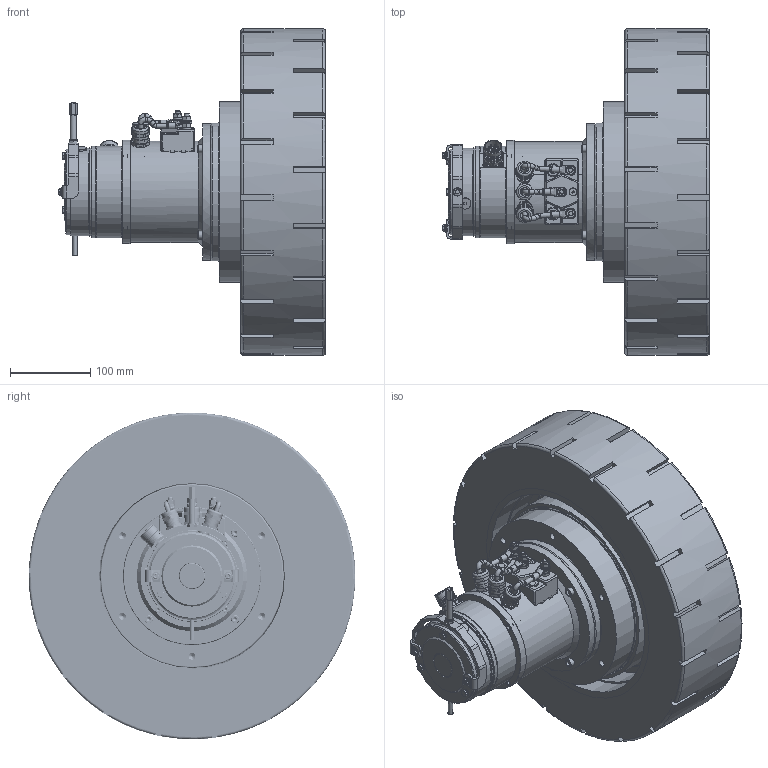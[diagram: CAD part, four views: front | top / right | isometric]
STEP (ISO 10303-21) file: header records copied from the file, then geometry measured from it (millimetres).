
FILE_DESCRIPTION(/* description */ (''),/* implementation_level */ '2;1');
FILE_NAME(/* name */ 'Z:\SITO WEB 2024\Dual Drive\MRH182\MRH182 BL D.406 mm\MRH182.BL.D406.stp',/* time_stamp */ '2024-03-15T08:33:46+01:00',/* author */ ('cad3'),/* organization */ (''),/* preprocessor_version */ 'ST-DEVELOPER v18.1',/* originating_system */ 'Autodesk Inventor 2022',/* authorisation */ '');
FILE_SCHEMA (('AUTOMOTIVE_DESIGN { 1 0 10303 214 3 1 1 }'));
Products named in the file (1): MRH182.BL.D406
Bounding box: 331.5 x 405.94 x 405.94 mm (x, y, z)
Volume: 13202982.8 mm3; surface area: 1206305.7 mm2
Topology: 7 solids, 44 shells, 3087 faces, 7704 edges, 4871 vertices
Faces by surface type: plane 1453, cylinder 756, cone 372, bspline 295, torus 164, sphere 47
Full cylindrical faces by diameter (mm): 0.9 x12, 2 x5, 2.9 x8, 3.2 x4, 3.242 x11, 4 x4, 4.134 x13, 4.3 x6, 4.5 x3, 4.625 x1, 4.917 x1, 5 x19, 5.2 x21, 5.5 x9, 5.637 x1, 6 x26, 6.2 x6, 6.5 x4, 6.647 x3, 6.88 x3, 6.917 x3, 7 x3, 7.1 x1, 7.8 x1, 8 x11, 8.4 x5, 8.5 x14, 9 x16, 9.64 x2, 10 x9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
Entity records: 110332 total; most frequent: CARTESIAN_POINT 35225, ORIENTED_EDGE 15242, DIRECTION 14539, EDGE_CURVE 7621, AXIS2_PLACEMENT_3D 5469, VERTEX_POINT 4870, LINE 3601, VECTOR 3601
